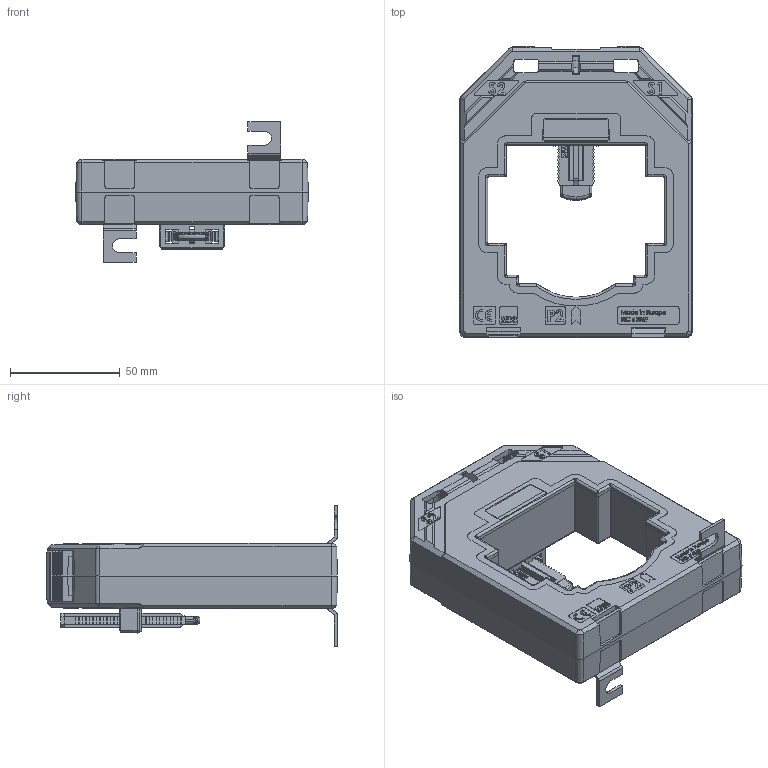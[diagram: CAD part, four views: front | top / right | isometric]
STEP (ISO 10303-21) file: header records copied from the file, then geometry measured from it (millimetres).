
FILE_DESCRIPTION (( 'STEP AP214' ), '1' );
FILE_NAME ('_ASK83.3_kpl_2024-09-09.STEP', '2024-09-09T14:59:52', ( '' ), ( '' ), 'SwSTEP 2.0', 'SolidWorks 2022', '' );
FILE_SCHEMA (( 'AUTOMOTIVE_DESIGN' ));
Length unit declared in the file: millimetre
Products named in the file (1): _ASK83.3_kpl_2024-09-09
Bounding box: 106 x 132.6 x 64 mm (x, y, z)
Volume: 248288.5 mm3; surface area: 61057.1 mm2
Topology: 9 solids, 13 shells, 2386 faces, 6420 edges, 4161 vertices
Faces by surface type: plane 1557, bspline 527, cylinder 232, cone 56, sphere 11, torus 3
Entity records: 125370 total; most frequent: CARTESIAN_POINT 44184, ORIENTED_EDGE 12800, DIRECTION 9042, EDGE_CURVE 6400, VECTOR 4654, LINE 4654, VERTEX_POINT 4161, EDGE_LOOP 2527
